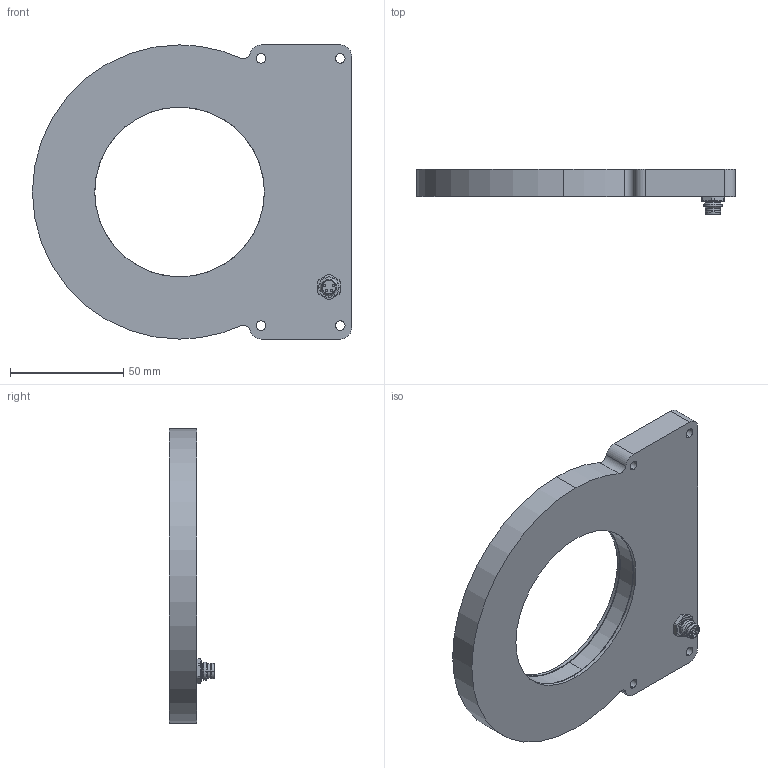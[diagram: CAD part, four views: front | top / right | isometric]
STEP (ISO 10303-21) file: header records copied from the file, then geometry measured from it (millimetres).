
FILE_DESCRIPTION (( 'STEP AP214' ), '1' );
FILE_NAME ('02291.00 Basisbaugruppe HDF-07 step03112020.STEP', '2020-11-03T12:00:38', ( '' ), ( '' ), 'SwSTEP 2.0', 'SolidWorks 2013', '' );
FILE_SCHEMA (( 'AUTOMOTIVE_DESIGN' ));
Length unit declared in the file: millimetre
Products named in the file (1): 02291.00 Basisbaugruppe HDF-07 step03112020
Bounding box: 141 x 20 x 130 mm (x, y, z)
Volume: 117628.9 mm3; surface area: 101334 mm2
Topology: 6 solids, 6 shells, 197 faces, 500 edges, 326 vertices
Faces by surface type: cylinder 106, plane 65, cone 18, bspline 8
Entity records: 9045 total; most frequent: CARTESIAN_POINT 1883, DIRECTION 1074, ORIENTED_EDGE 1000, EDGE_CURVE 500, AXIS2_PLACEMENT_3D 426, VERTEX_POINT 326, CIRCLE 236, EDGE_LOOP 228
